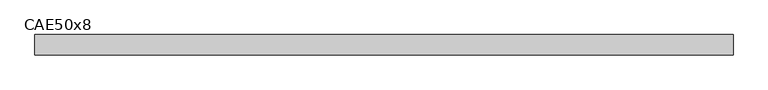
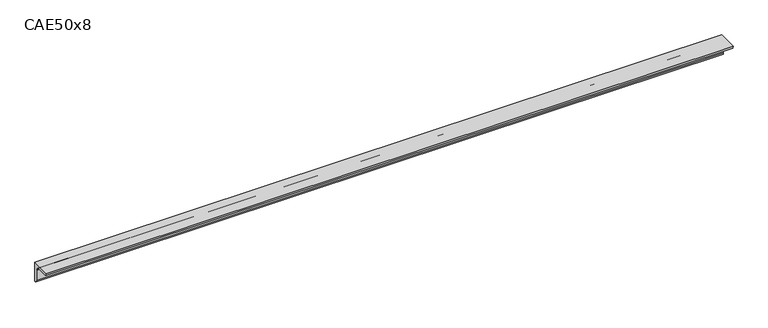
"""IFC4 building model written with IfcOpenShell, lengths in millimetres: beam geometry, L-Cornières : CAE50x8."""

from ifc_helpers import new_model, si_unit, point, frame, frame_2d, origin, place, context, project, spatial, polyline, circle_curve, trimmed, segment, composite_curve, outline, extrude, source, transform, mapped, element, save


def cae50x8_649b7cb2(model_context):
    return source(origin(), model_context, "Body", "SweptSolid", [
        extrude(outline(composite_curve([segment(polyline([(15.2, 15.2), (15.2, -34.8)]), True, "CONTINUOUS"), segment(trimmed(circle_curve(frame_2d((15.2, -26.8)), 8.0), [point((15.2, -34.8))], [point((7.2, -26.8))], False, "CARTESIAN"), True, "CONTINUOUS"), segment(polyline([(7.2, -26.8), (7.2, -0.8)]), True, "CONTINUOUS"), segment(trimmed(circle_curve(frame_2d((-0.8, -0.8)), 8.0), [point((7.2, -0.8))], [point((-0.8, 7.2))], True, "CARTESIAN"), True, "CONTINUOUS"), segment(polyline([(-0.8, 7.2), (-26.8, 7.2)]), True, "CONTINUOUS"), segment(trimmed(circle_curve(frame_2d((-26.8, 15.2)), 8.0), [point((-26.8, 7.2))], [point((-34.8, 15.2))], False, "CARTESIAN"), True, "CONTINUOUS"), segment(polyline([(-34.8, 15.2), (15.2, 15.2)]), True, "CONTINUOUS")], self_intersect=False)), frame((-862.0, 0.0, 0.0), z_axis=(1.0, 0.0, 0.0), x_axis=(0.0, 1.0, 0.0)), (0.0, 0.0, 1.0), 1710.0),
    ])


if __name__ == "__main__":
    model = new_model("IFC4")
    model_context = context("Model", 3, world=origin())
    ifc_project = project(units=[si_unit("LENGTHUNIT", "METRE", prefix="MILLI")], contexts=[model_context])
    site = spatial("IfcSite", under=ifc_project)
    building = spatial("IfcBuilding", under=site)
    placement = place(None, origin())
    cae50x8_shape = cae50x8_649b7cb2(model_context)
    element("IfcBeam", 1, ObjectType="L-Cornières : CAE50x8", at=placement, inside=building, context=model_context, shape_type="MappedRepresentation", body=[
        mapped(cae50x8_shape, transform((0.0, 0.0, 0.0), x_axis=(1.0, 0.0, 0.0), y_axis=(0.0, 1.0, 0.0), z_axis=(0.0, 0.0, 1.0))),
    ])
    save(model, "model.ifc")
